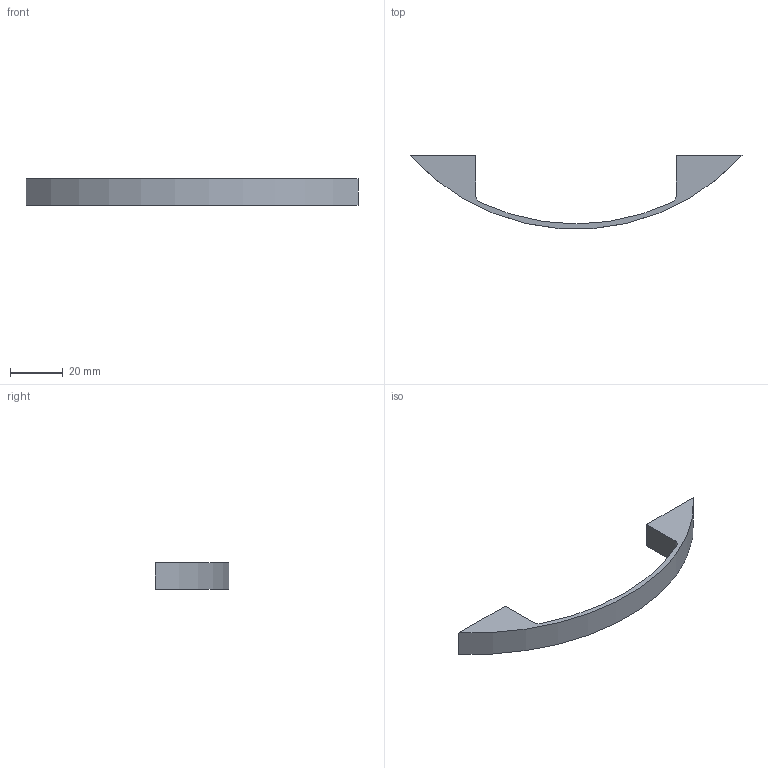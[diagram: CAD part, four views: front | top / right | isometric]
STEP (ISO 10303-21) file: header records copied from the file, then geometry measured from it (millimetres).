
FILE_DESCRIPTION( ( '' ), '1' );
FILE_NAME( 'D:/1.AUTOCAD EXPORT/Group 10/sheet_10_1/115203.stp', '2013-10-21T12:36:43', ( '' ), ( '' ), ' ', ' ', ' ' );
FILE_SCHEMA( ( 'automotive_design' ) );
Length unit declared in the file: millimetre
Products named in the file (1): 1
Bounding box: 126 x 27.75 x 10 mm (x, y, z)
Volume: 6700.6 mm3; surface area: 4621.6 mm2
Topology: 1 solids, 1 shells, 16 faces, 36 edges, 24 vertices
Faces by surface type: cylinder 8, plane 8
Entity records: 908 total; most frequent: DIRECTION 86, STYLED_ITEM 77, PRESENTATION_STYLE_ASSIGNMENT 77, CARTESIAN_POINT 77, COLOUR_RGB 77, ORIENTED_EDGE 72, EDGE_CURVE 36, CURVE_STYLE 36
